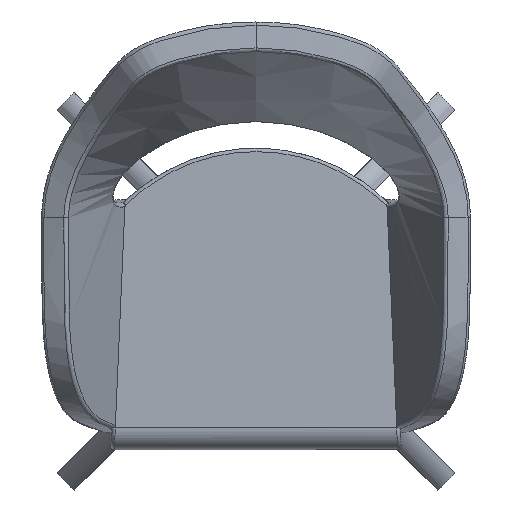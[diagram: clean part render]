
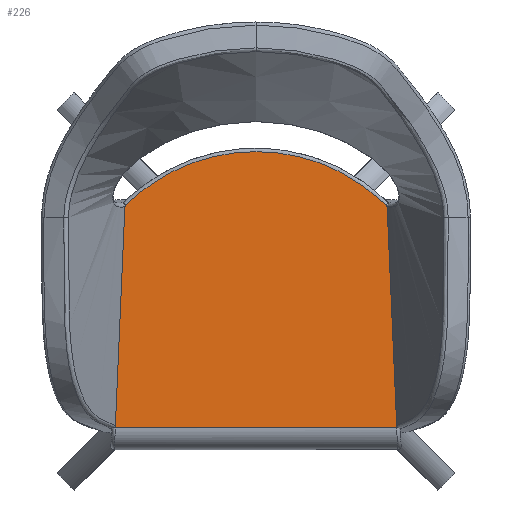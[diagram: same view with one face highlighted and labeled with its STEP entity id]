
A CAD part, top view. The second image highlights one B-rep face of the part: STEP entity #226.
In plain terms, the highlighted planar face has unit normal (0, 0.026, 1).
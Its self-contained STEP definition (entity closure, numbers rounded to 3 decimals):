
#226=ADVANCED_FACE('',(#350),#2024,.T.);
#350=FACE_OUTER_BOUND('',#474,.T.);
#474=EDGE_LOOP('',(#973,#974,#975,#976,#977,#978));
#973=ORIENTED_EDGE('',*,*,#1364,.T.);
#974=ORIENTED_EDGE('',*,*,#1394,.T.);
#975=ORIENTED_EDGE('',*,*,#1387,.T.);
#976=ORIENTED_EDGE('',*,*,#1390,.T.);
#977=ORIENTED_EDGE('',*,*,#1381,.T.);
#978=ORIENTED_EDGE('',*,*,#1343,.F.);
#1343=EDGE_CURVE('',#1892,#1895,#1556,.T.);
#1364=EDGE_CURVE('',#1892,#1893,#1683,.T.);
#1381=EDGE_CURVE('',#1894,#1895,#1700,.T.);
#1387=EDGE_CURVE('',#1896,#1897,#1706,.T.);
#1390=EDGE_CURVE('',#1897,#1894,#1709,.T.);
#1394=EDGE_CURVE('',#1893,#1896,#1713,.T.);
#1556=B_SPLINE_CURVE_WITH_KNOTS('',1,(#7030,#7031),.UNSPECIFIED.,.F.,.F.,
(2,2),(6.309,403.691),.UNSPECIFIED.);
#1683=(
BOUNDED_CURVE()
B_SPLINE_CURVE(1,(#7100,#7101),.UNSPECIFIED.,.F.,.F.)
B_SPLINE_CURVE_WITH_KNOTS((2,2),(0.217,311.552),
 .UNSPECIFIED.)
CURVE()
GEOMETRIC_REPRESENTATION_ITEM()
RATIONAL_B_SPLINE_CURVE((1.,1.))
REPRESENTATION_ITEM('')
);
#1700=(
BOUNDED_CURVE()
B_SPLINE_CURVE(1,(#7179,#7180),.UNSPECIFIED.,.F.,.F.)
B_SPLINE_CURVE_WITH_KNOTS((2,2),(0.,311.335),.UNSPECIFIED.)
CURVE()
GEOMETRIC_REPRESENTATION_ITEM()
RATIONAL_B_SPLINE_CURVE((1.,1.))
REPRESENTATION_ITEM('')
);
#1706=(
BOUNDED_CURVE()
B_SPLINE_CURVE(3,(#7202,#7203,#7204,#7205,#7206,#7207,#7208,#7209,#7210),
 .UNSPECIFIED.,.F.,.F.)
B_SPLINE_CURVE_WITH_KNOTS((4,1,1,1,1,1,4),(0.,87.476,
145.46,203.877,262.294,320.278,407.755),
 .UNSPECIFIED.)
CURVE()
GEOMETRIC_REPRESENTATION_ITEM()
RATIONAL_B_SPLINE_CURVE((1.,1.,1.,1.,1.,1.,
1.,1.,1.))
REPRESENTATION_ITEM('')
);
#1709=(
BOUNDED_CURVE()
B_SPLINE_CURVE(3,(#7218,#7219,#7220,#7221),.UNSPECIFIED.,.F.,.F.)
B_SPLINE_CURVE_WITH_KNOTS((4,4),(0.,3.725),.UNSPECIFIED.)
CURVE()
GEOMETRIC_REPRESENTATION_ITEM()
RATIONAL_B_SPLINE_CURVE((1.,1.,1.,1.))
REPRESENTATION_ITEM('')
);
#1713=(
BOUNDED_CURVE()
B_SPLINE_CURVE(3,(#7234,#7235,#7236,#7237),.UNSPECIFIED.,.F.,.F.)
B_SPLINE_CURVE_WITH_KNOTS((4,4),(0.,3.725),
 .UNSPECIFIED.)
CURVE()
GEOMETRIC_REPRESENTATION_ITEM()
RATIONAL_B_SPLINE_CURVE((1.,1.,1.,1.))
REPRESENTATION_ITEM('')
);
#1892=VERTEX_POINT('',#7000);
#1893=VERTEX_POINT('',#7001);
#1894=VERTEX_POINT('',#7002);
#1895=VERTEX_POINT('',#7003);
#1896=VERTEX_POINT('',#7004);
#1897=VERTEX_POINT('',#7005);
#2024=PLANE('',#2086);
#2086=AXIS2_PLACEMENT_3D('',#6704,#2133,$);
#2133=DIRECTION('',(0.,0.026,1.));
#6704=CARTESIAN_POINT('',(256.25,254.834,468.879));
#7000=CARTESIAN_POINT('',(198.691,-193.301,480.634));
#7001=CARTESIAN_POINT('',(185.173,117.633,472.478));
#7002=CARTESIAN_POINT('',(-185.173,117.633,472.478));
#7003=CARTESIAN_POINT('',(-198.691,-193.301,480.634));
#7004=CARTESIAN_POINT('',(183.703,120.962,472.391));
#7005=CARTESIAN_POINT('',(-183.703,120.962,472.391));
#7030=CARTESIAN_POINT('',(198.691,-193.301,480.634));
#7031=CARTESIAN_POINT('',(-198.691,-193.301,480.634));
#7100=CARTESIAN_POINT('',(198.691,-193.301,480.634));
#7101=CARTESIAN_POINT('',(185.173,117.633,472.478));
#7179=CARTESIAN_POINT('',(-185.173,117.633,472.478));
#7180=CARTESIAN_POINT('',(-198.691,-193.301,480.634));
#7202=CARTESIAN_POINT('',(183.703,120.962,472.391));
#7203=CARTESIAN_POINT('',(163.031,141.522,471.851));
#7204=CARTESIAN_POINT('',(122.845,169.845,471.108));
#7205=CARTESIAN_POINT('',(58.271,192.343,470.518));
#7206=CARTESIAN_POINT('',(0.,198.906,470.346));
#7207=CARTESIAN_POINT('',(-58.271,192.343,470.518));
#7208=CARTESIAN_POINT('',(-122.845,169.845,471.108));
#7209=CARTESIAN_POINT('',(-163.031,141.522,471.851));
#7210=CARTESIAN_POINT('',(-183.703,120.962,472.391));
#7218=CARTESIAN_POINT('',(-183.703,120.962,472.391));
#7219=CARTESIAN_POINT('',(-184.587,120.088,472.413));
#7220=CARTESIAN_POINT('',(-185.123,118.875,472.445));
#7221=CARTESIAN_POINT('',(-185.173,117.633,472.478));
#7234=CARTESIAN_POINT('',(185.173,117.633,472.478));
#7235=CARTESIAN_POINT('',(185.123,118.875,472.445));
#7236=CARTESIAN_POINT('',(184.587,120.088,472.413));
#7237=CARTESIAN_POINT('',(183.703,120.962,472.391));
